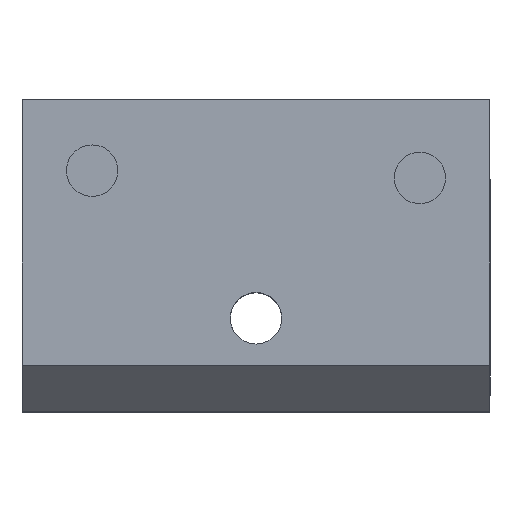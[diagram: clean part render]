
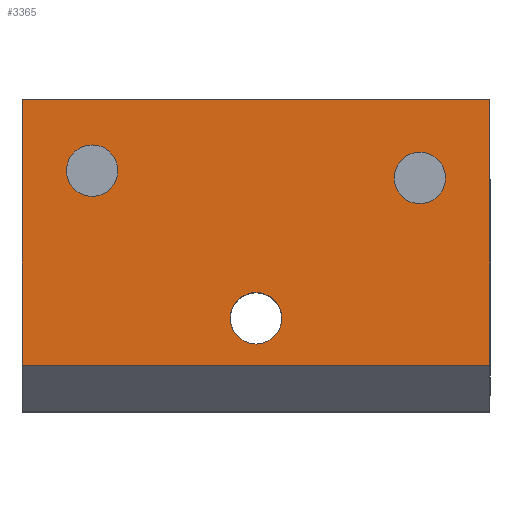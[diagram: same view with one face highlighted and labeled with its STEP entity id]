
A CAD part, top view. The second image highlights one B-rep face of the part: STEP entity #3365.
In plain terms, the highlighted planar face has unit normal (0, 0, 1).
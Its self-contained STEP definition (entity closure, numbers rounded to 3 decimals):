
#68 = AXIS2_PLACEMENT_3D ( 'NONE', #272, #4381, #4979 ) ;
#166 = CARTESIAN_POINT ( 'NONE',  ( 15., 10., 12. ) ) ;
#249 = CARTESIAN_POINT ( 'NONE',  ( -1.65, -4., 12. ) ) ;
#272 = CARTESIAN_POINT ( 'NONE',  ( 0., -4., 12. ) ) ;
#350 = EDGE_CURVE ( 'NONE', #4565, #3854, #6908, .T. ) ;
#352 = FACE_OUTER_BOUND ( 'NONE', #4083, .T. ) ;
#374 = AXIS2_PLACEMENT_3D ( 'NONE', #2641, #6677, #7371 ) ;
#410 = VERTEX_POINT ( 'NONE', #3187 ) ;
#444 = CIRCLE ( 'NONE', #2952, 1.65 ) ;
#528 = DIRECTION ( 'NONE',  ( 0., 0., -1. ) ) ;
#697 = AXIS2_PLACEMENT_3D ( 'NONE', #1349, #2516, #3724 ) ;
#894 = LINE ( 'NONE', #4795, #5837 ) ;
#1001 = EDGE_CURVE ( 'NONE', #2061, #6529, #6194, .T. ) ;
#1093 = CIRCLE ( 'NONE', #6510, 1.65 ) ;
#1110 = DIRECTION ( 'NONE',  ( -1., 0., 0. ) ) ;
#1183 = CARTESIAN_POINT ( 'NONE',  ( 15., -7., 12. ) ) ;
#1333 = VECTOR ( 'NONE', #1836, 1000. ) ;
#1349 = CARTESIAN_POINT ( 'NONE',  ( 10.5, 5., 12. ) ) ;
#1461 = CARTESIAN_POINT ( 'NONE',  ( -15., 10., 12. ) ) ;
#1616 = CIRCLE ( 'NONE', #4586, 1.65 ) ;
#1651 = CARTESIAN_POINT ( 'NONE',  ( -10.5, 5.464, 12. ) ) ;
#1819 = FACE_BOUND ( 'NONE', #3619, .T. ) ;
#1836 = DIRECTION ( 'NONE',  ( -1., 0., 0. ) ) ;
#1929 = CARTESIAN_POINT ( 'NONE',  ( -12.15, 5.464, 12. ) ) ;
#1977 = ORIENTED_EDGE ( 'NONE', *, *, #3042, .T. ) ;
#2061 = VERTEX_POINT ( 'NONE', #3602 ) ;
#2063 = EDGE_CURVE ( 'NONE', #2763, #7606, #1616, .T. ) ;
#2214 = EDGE_CURVE ( 'NONE', #3854, #2223, #894, .T. ) ;
#2223 = VERTEX_POINT ( 'NONE', #1183 ) ;
#2346 = VECTOR ( 'NONE', #3789, 1000. ) ;
#2398 = VECTOR ( 'NONE', #7347, 1000. ) ;
#2516 = DIRECTION ( 'NONE',  ( 0., 0., -1. ) ) ;
#2538 = CARTESIAN_POINT ( 'NONE',  ( -15., -7., 12. ) ) ;
#2641 = CARTESIAN_POINT ( 'NONE',  ( 0., 0., 12. ) ) ;
#2658 = CARTESIAN_POINT ( 'NONE',  ( -15., -10., 12. ) ) ;
#2763 = VERTEX_POINT ( 'NONE', #3582 ) ;
#2861 = ORIENTED_EDGE ( 'NONE', *, *, #4964, .T. ) ;
#2937 = DIRECTION ( 'NONE',  ( -1., 0., 0. ) ) ;
#2952 = AXIS2_PLACEMENT_3D ( 'NONE', #5355, #3617, #2937 ) ;
#3042 = EDGE_CURVE ( 'NONE', #410, #6003, #1093, .T. ) ;
#3187 = CARTESIAN_POINT ( 'NONE',  ( -8.85, 5.464, 12. ) ) ;
#3197 = CARTESIAN_POINT ( 'NONE',  ( -10.5, 5.464, 12. ) ) ;
#3365 = ADVANCED_FACE ( 'NONE', ( #6411, #4036, #1819, #352 ), #4951, .T. ) ;
#3527 = CARTESIAN_POINT ( 'NONE',  ( 0., -4., 12. ) ) ;
#3529 = EDGE_LOOP ( 'NONE', ( #6254, #5589 ) ) ;
#3555 = CIRCLE ( 'NONE', #4512, 1.65 ) ;
#3582 = CARTESIAN_POINT ( 'NONE',  ( 1.65, -4., 12. ) ) ;
#3602 = CARTESIAN_POINT ( 'NONE',  ( 8.85, 5., 12. ) ) ;
#3617 = DIRECTION ( 'NONE',  ( 0., 0., -1. ) ) ;
#3619 = EDGE_LOOP ( 'NONE', ( #7500, #1977 ) ) ;
#3724 = DIRECTION ( 'NONE',  ( -1., 0., 0. ) ) ;
#3789 = DIRECTION ( 'NONE',  ( 0., 1., 0. ) ) ;
#3794 = DIRECTION ( 'NONE',  ( -1., 0., 0. ) ) ;
#3795 = ORIENTED_EDGE ( 'NONE', *, *, #2214, .T. ) ;
#3824 = EDGE_LOOP ( 'NONE', ( #6294, #7071 ) ) ;
#3854 = VERTEX_POINT ( 'NONE', #2538 ) ;
#3934 = LINE ( 'NONE', #6118, #2346 ) ;
#3959 = EDGE_CURVE ( 'NONE', #6003, #410, #3555, .T. ) ;
#4036 = FACE_BOUND ( 'NONE', #3529, .T. ) ;
#4083 = EDGE_LOOP ( 'NONE', ( #7361, #3795, #2861, #5823 ) ) ;
#4220 = CIRCLE ( 'NONE', #68, 1.65 ) ;
#4288 = LINE ( 'NONE', #166, #1333 ) ;
#4313 = EDGE_CURVE ( 'NONE', #5089, #4565, #4288, .T. ) ;
#4381 = DIRECTION ( 'NONE',  ( 0., 0., -1. ) ) ;
#4504 = CARTESIAN_POINT ( 'NONE',  ( 15., 10., 12. ) ) ;
#4512 = AXIS2_PLACEMENT_3D ( 'NONE', #3197, #7299, #3794 ) ;
#4565 = VERTEX_POINT ( 'NONE', #1461 ) ;
#4586 = AXIS2_PLACEMENT_3D ( 'NONE', #3527, #5960, #4775 ) ;
#4690 = DIRECTION ( 'NONE',  ( 1., 0., 0. ) ) ;
#4775 = DIRECTION ( 'NONE',  ( -1., 0., 0. ) ) ;
#4795 = CARTESIAN_POINT ( 'NONE',  ( 15., -7., 12. ) ) ;
#4951 = PLANE ( 'NONE',  #374 ) ;
#4964 = EDGE_CURVE ( 'NONE', #2223, #5089, #3934, .T. ) ;
#4979 = DIRECTION ( 'NONE',  ( -1., 0., 0. ) ) ;
#5089 = VERTEX_POINT ( 'NONE', #4504 ) ;
#5355 = CARTESIAN_POINT ( 'NONE',  ( 10.5, 5., 12. ) ) ;
#5589 = ORIENTED_EDGE ( 'NONE', *, *, #6491, .T. ) ;
#5823 = ORIENTED_EDGE ( 'NONE', *, *, #4313, .T. ) ;
#5837 = VECTOR ( 'NONE', #4690, 1000. ) ;
#5960 = DIRECTION ( 'NONE',  ( 0., 0., -1. ) ) ;
#6003 = VERTEX_POINT ( 'NONE', #1929 ) ;
#6118 = CARTESIAN_POINT ( 'NONE',  ( 15., -10., 12. ) ) ;
#6129 = EDGE_CURVE ( 'NONE', #7606, #2763, #4220, .T. ) ;
#6194 = CIRCLE ( 'NONE', #697, 1.65 ) ;
#6254 = ORIENTED_EDGE ( 'NONE', *, *, #1001, .T. ) ;
#6294 = ORIENTED_EDGE ( 'NONE', *, *, #6129, .T. ) ;
#6411 = FACE_BOUND ( 'NONE', #3824, .T. ) ;
#6491 = EDGE_CURVE ( 'NONE', #6529, #2061, #444, .T. ) ;
#6510 = AXIS2_PLACEMENT_3D ( 'NONE', #1651, #528, #1110 ) ;
#6529 = VERTEX_POINT ( 'NONE', #6696 ) ;
#6677 = DIRECTION ( 'NONE',  ( 0., 0., 1. ) ) ;
#6696 = CARTESIAN_POINT ( 'NONE',  ( 12.15, 5., 12. ) ) ;
#6908 = LINE ( 'NONE', #2658, #2398 ) ;
#7071 = ORIENTED_EDGE ( 'NONE', *, *, #2063, .T. ) ;
#7299 = DIRECTION ( 'NONE',  ( 0., 0., -1. ) ) ;
#7347 = DIRECTION ( 'NONE',  ( 0., -1., 0. ) ) ;
#7361 = ORIENTED_EDGE ( 'NONE', *, *, #350, .T. ) ;
#7371 = DIRECTION ( 'NONE',  ( 1., 0., 0. ) ) ;
#7500 = ORIENTED_EDGE ( 'NONE', *, *, #3959, .T. ) ;
#7606 = VERTEX_POINT ( 'NONE', #249 ) ;
